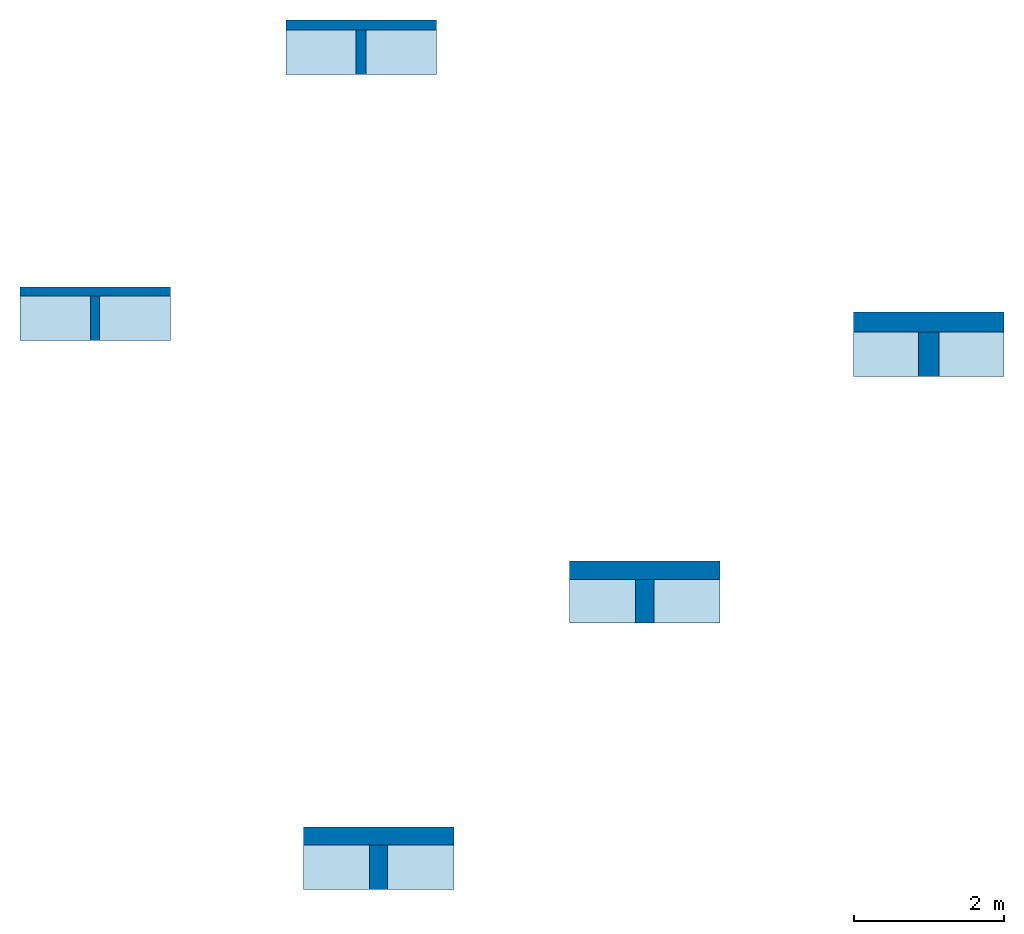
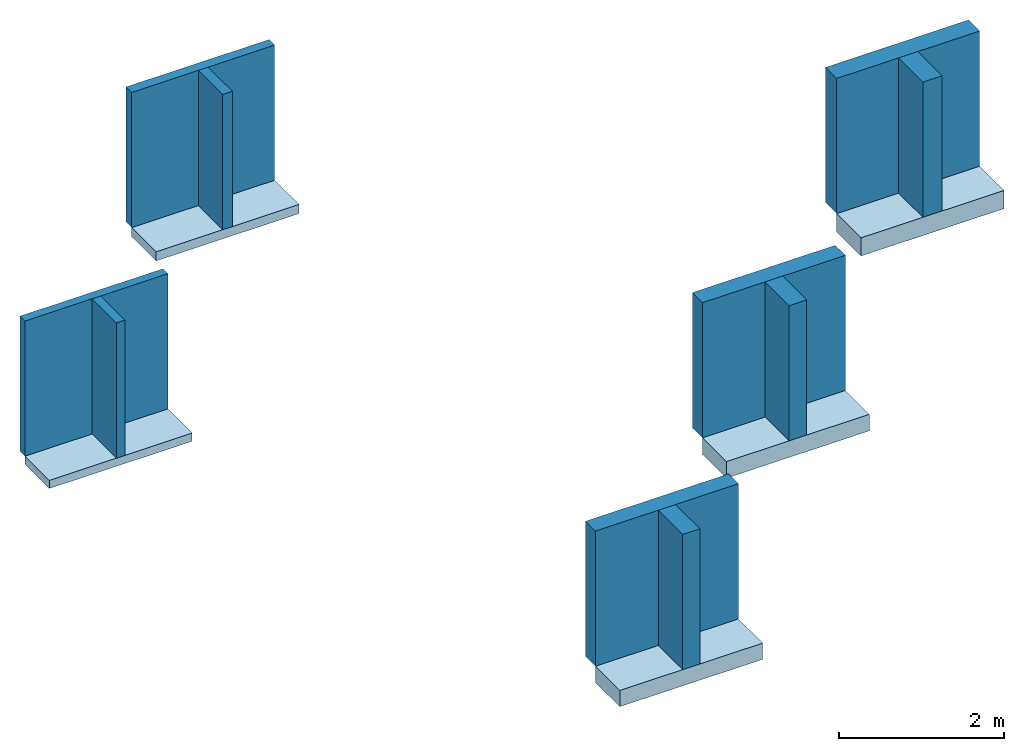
# One storey: 10 walls, 5 slabs.
"""IFC2X3 building model written with IfcOpenShell, lengths in millimetres."""

from ifc_helpers import new_model, entity, si_unit, converted_unit, derived_unit, direction, frame, frame_2d, origin, origin_2d_with_axis, place, context, subcontext, project, spatial, rectangle, extrude, material, layer, layer_set, layer_usage, type_object, element, save


model = new_model("IFC2X3")

# Units and contexts
model_context = context("Model", 3, precision=0.01, world=origin(), true_north=direction((6.12303176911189e-17, 1.0)))
context_of_model = context(None, 3, precision=0.01, world=origin(), true_north=direction((6.12303176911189e-17, 1.0)))
body_context = subcontext(model_context, "Body", "Model", "MODEL_VIEW")
ifc_project = project(units=[si_unit("LENGTHUNIT", "METRE", prefix="MILLI"), si_unit("AREAUNIT", "SQUARE_METRE"), si_unit("VOLUMEUNIT", "CUBIC_METRE"), converted_unit("PLANEANGLEUNIT", "DEGREE", entity("IfcRatioMeasure", 0.0174532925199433), si_unit("PLANEANGLEUNIT", "RADIAN"), dimensions=[0, 0, 0, 0, 0, 0, 0]), si_unit("MASSUNIT", "GRAM", prefix="KILO"), derived_unit("MASSDENSITYUNIT", [(si_unit("MASSUNIT", "GRAM", prefix="KILO"), 1), (si_unit("LENGTHUNIT", "METRE"), -3)]), derived_unit("MOMENTOFINERTIAUNIT", [(si_unit("LENGTHUNIT", "METRE"), 4)]), si_unit("TIMEUNIT", "SECOND"), si_unit("FREQUENCYUNIT", "HERTZ"), si_unit("THERMODYNAMICTEMPERATUREUNIT", "DEGREE_CELSIUS"), derived_unit("THERMALTRANSMITTANCEUNIT", [(si_unit("MASSUNIT", "GRAM", prefix="KILO"), 1), (si_unit("THERMODYNAMICTEMPERATUREUNIT", "KELVIN"), -1), (si_unit("TIMEUNIT", "SECOND"), -3)]), derived_unit("VOLUMETRICFLOWRATEUNIT", [(si_unit("LENGTHUNIT", "METRE"), 3), (si_unit("TIMEUNIT", "SECOND"), -1)]), si_unit("ELECTRICCURRENTUNIT", "AMPERE"), si_unit("ELECTRICVOLTAGEUNIT", "VOLT"), si_unit("POWERUNIT", "WATT"), si_unit("FORCEUNIT", "NEWTON", prefix="KILO"), si_unit("ILLUMINANCEUNIT", "LUX"), si_unit("LUMINOUSFLUXUNIT", "LUMEN"), si_unit("LUMINOUSINTENSITYUNIT", "CANDELA"), derived_unit("USERDEFINED", [(si_unit("MASSUNIT", "GRAM", prefix="KILO"), -1), (si_unit("LENGTHUNIT", "METRE"), -2), (si_unit("TIMEUNIT", "SECOND"), 3), (si_unit("LUMINOUSFLUXUNIT", "LUMEN"), 1)]), derived_unit("LINEARVELOCITYUNIT", [(si_unit("LENGTHUNIT", "METRE"), 1), (si_unit("TIMEUNIT", "SECOND"), -1)]), si_unit("PRESSUREUNIT", "PASCAL"), derived_unit("USERDEFINED", [(si_unit("LENGTHUNIT", "METRE"), -2), (si_unit("MASSUNIT", "GRAM", prefix="KILO"), 1), (si_unit("TIMEUNIT", "SECOND"), -2)]), derived_unit("LINEARFORCEUNIT", [(si_unit("MASSUNIT", "GRAM", prefix="KILO"), 1), (si_unit("LENGTHUNIT", "METRE"), 1), (si_unit("TIMEUNIT", "SECOND"), -2), (si_unit("LENGTHUNIT", "METRE"), -1)]), derived_unit("PLANARFORCEUNIT", [(si_unit("MASSUNIT", "GRAM", prefix="KILO"), 1), (si_unit("LENGTHUNIT", "METRE"), 1), (si_unit("TIMEUNIT", "SECOND"), -2), (si_unit("LENGTHUNIT", "METRE"), -2)])], contexts=[model_context, context_of_model])

# Site, building, storey
site_placement = place(None, origin())
site = spatial("IfcSite", under=ifc_project, at=site_placement, Name="Default", CompositionType="ELEMENT")
building_placement = place(site_placement, origin())
building = spatial("IfcBuilding", under=site, at=building_placement, CompositionType="ELEMENT")
storey_placement = place(building_placement, origin())
storey = spatial("IfcBuildingStorey", under=building, at=storey_placement, Name="Begane grond", CompositionType="ELEMENT", Elevation=0.0)

# Slabs
ifc_material = material(Name="Knauf Insulation_Ecose® glaswol Naturoll 033")
ifc_layer_1 = layer(ifc_material, 120.0)
ifc_layer_set_1 = layer_set([ifc_layer_1], Name="Floor:NLRS_23_FL_Naturoll 033_120x590x3300mm")
ifc_layer_usage_1 = layer_usage(ifc_layer_set_1, "AXIS3", "POSITIVE", 0.0)
slab_type_1 = type_object("IfcSlabType", Name="Floor:NLRS_23_FL_Naturoll 033_120x590x3300mm", PredefinedType="FLOOR", material=ifc_layer_set_1)
slab_1_placement = place(storey_placement, origin())
element("IfcSlab", 1, at=slab_1_placement, inside=storey, type_object=slab_type_1, material=ifc_layer_usage_1, Name="Floor:NLRS_23_FL_Naturoll 033_120x590x3300mm:4805", ObjectType="Floor:NLRS_23_FL_Naturoll 033_120x590x3300mm", PredefinedType="FLOOR", context=body_context, shape_type="SweptSolid", body=[
    extrude(rectangle(XDim=590.0, YDim=2000.0, at=origin_2d_with_axis()), frame((521.841374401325, 2707.39833712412, 0.0), z_axis=(0.0, 0.0, -1.0), x_axis=(0.0, 1.0, 0.0)), (0.0, 0.0, 1.0), 120.0),
])
ifc_layer_2 = layer(ifc_material, 135.0)
ifc_layer_set_2 = layer_set([ifc_layer_2], Name="Floor:NLRS_23_FL_Naturoll 033_135x590x3900mm")
ifc_layer_usage_2 = layer_usage(ifc_layer_set_2, "AXIS3", "POSITIVE", 0.0)
slab_type_2 = type_object("IfcSlabType", Name="Floor:NLRS_23_FL_Naturoll 033_135x590x3900mm", PredefinedType="FLOOR", material=ifc_layer_set_2)
slab_2_placement = place(storey_placement, origin())
element("IfcSlab", 2, at=slab_2_placement, inside=storey, type_object=slab_type_2, material=ifc_layer_usage_2, Name="Floor:NLRS_23_FL_Naturoll 033_135x590x3900mm:5263", ObjectType="Floor:NLRS_23_FL_Naturoll 033_135x590x3900mm", PredefinedType="FLOOR", context=body_context, shape_type="SweptSolid", body=[
    extrude(rectangle(XDim=590.0, YDim=2000.0, at=origin_2d_with_axis()), frame((4057.37528033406, 6242.93224305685, 0.0), z_axis=(0.0, 0.0, -1.0), x_axis=(0.0, 1.0, 0.0)), (0.0, 0.0, 1.0), 135.0),
])
ifc_layer_3 = layer(ifc_material, 240.0)
ifc_layer_set_3 = layer_set([ifc_layer_3], Name="Floor:NLRS_23_FL_Naturoll 033_240x590x2000mm")
ifc_layer_usage_3 = layer_usage(ifc_layer_set_3, "AXIS3", "POSITIVE", 0.0)
slab_type_3 = type_object("IfcSlabType", Name="Floor:NLRS_23_FL_Naturoll 033_240x590x2000mm", PredefinedType="FLOOR", material=ifc_layer_set_3)
slab_3_placement = place(storey_placement, origin())
element("IfcSlab", 3, at=slab_3_placement, inside=storey, type_object=slab_type_3, material=ifc_layer_usage_3, Name="Floor:NLRS_23_FL_Naturoll 033_240x590x2000mm", ObjectType="Floor:NLRS_23_FL_Naturoll 033_240x590x2000mm", PredefinedType="FLOOR", context=body_context, shape_type="SweptSolid", body=[
    extrude(rectangle(XDim=590.0, YDim=2000.0, at=frame_2d((-2.55795384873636e-13, 0.0), x_axis=(1.0, 0.0))), frame((4289.6940687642, -4591.6807597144, 0.0), z_axis=(0.0, 0.0, -1.0), x_axis=(0.0, 1.0, 0.0)), (0.0, 0.0, 1.0), 240.0),
])
ifc_layer_4 = layer(ifc_material, 245.0)
ifc_layer_set_4 = layer_set([ifc_layer_4], Name="Floor:NLRS_23_FL_Naturoll 033_245x580x2000mm")
ifc_layer_usage_4 = layer_usage(ifc_layer_set_4, "AXIS3", "POSITIVE", 0.0)
slab_type_4 = type_object("IfcSlabType", Name="Floor:NLRS_23_FL_Naturoll 033_245x580x2000mm", PredefinedType="FLOOR", material=ifc_layer_set_4)
slab_4_placement = place(storey_placement, origin())
element("IfcSlab", 4, at=slab_4_placement, inside=storey, type_object=slab_type_4, material=ifc_layer_usage_4, Name="Floor:NLRS_23_FL_Naturoll 033_245x580x2000mm", ObjectType="Floor:NLRS_23_FL_Naturoll 033_245x580x2000mm", PredefinedType="FLOOR", context=body_context, shape_type="SweptSolid", body=[
    extrude(rectangle(XDim=579.999999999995, YDim=2000.0, at=origin_2d_with_axis()), frame((7825.22797469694, -1056.14685378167, 0.0), z_axis=(0.0, 0.0, -1.0), x_axis=(0.0, 1.0, 0.0)), (0.0, 0.0, 1.0), 245.0),
])
ifc_layer_5 = layer(ifc_material, 270.0)
ifc_layer_set_5 = layer_set([ifc_layer_5], Name="Floor:NLRS_23_FL_Naturoll 033_270x590x2500mm")
ifc_layer_usage_5 = layer_usage(ifc_layer_set_5, "AXIS3", "POSITIVE", 0.0)
slab_type_5 = type_object("IfcSlabType", Name="Floor:NLRS_23_FL_Naturoll 033_270x590x2500mm", PredefinedType="FLOOR", material=ifc_layer_set_5)
slab_5_placement = place(storey_placement, origin())
element("IfcSlab", 5, at=slab_5_placement, inside=storey, type_object=slab_type_5, material=ifc_layer_usage_5, Name="Floor:NLRS_23_FL_Naturoll 033_270x590x2500mm", ObjectType="Floor:NLRS_23_FL_Naturoll 033_270x590x2500mm", PredefinedType="FLOOR", context=body_context, shape_type="SweptSolid", body=[
    extrude(rectangle(XDim=590.0, YDim=2000.0, at=origin_2d_with_axis()), frame((11603.2310849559, 2228.30284091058, 0.0), z_axis=(0.0, 0.0, -1.0), x_axis=(0.0, 1.0, 0.0)), (0.0, 0.0, 1.0), 270.0),
])

# Walls
ifc_layer_6 = layer(ifc_material, 120.0)
ifc_layer_set_6 = layer_set([ifc_layer_6], Name="Basic Wall:NLRS_21_WA_Naturoll 033_120x590x3300mm")
ifc_layer_usage_6 = layer_usage(ifc_layer_set_6, "AXIS2", "NEGATIVE", 60.0)
wall_type_1 = type_object("IfcWallType", Name="Basic Wall:NLRS_21_WA_Naturoll 033_120x590x3300mm", PredefinedType="STANDARD", material=ifc_layer_set_6)
wall_1_placement = place(storey_placement, frame((-478.158625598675, 3062.39833712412, 0.0)))
element("IfcWallStandardCase", 6, at=wall_1_placement, inside=storey, type_object=wall_type_1, material=ifc_layer_usage_6, Name="Basic Wall:NLRS_21_WA_Naturoll 033_120x590x3300mm:4861", ObjectType="Basic Wall:NLRS_21_WA_Naturoll 033_120x590x3300mm", context=body_context, shape_type="SweptSolid", body=[
    extrude(rectangle(XDim=2000.0, YDim=120.0, at=frame_2d((1000.0, 0.0), x_axis=(-1.0, 0.0))), origin(), (0.0, 0.0, 1.0), 2000.0),
])
ifc_layer_usage_7 = layer_usage(ifc_layer_set_6, "AXIS2", "NEGATIVE", 60.0)
wall_2_placement = place(storey_placement, frame((521.841374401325, 3002.39833712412, 0.0), z_axis=(0.0, 0.0, 1.0), x_axis=(0.0, -1.0, 0.0)))
element("IfcWallStandardCase", 7, at=wall_2_placement, inside=storey, type_object=wall_type_1, material=ifc_layer_usage_7, Name="Basic Wall:NLRS_21_WA_Naturoll 033_120x590x3300mm:4961", ObjectType="Basic Wall:NLRS_21_WA_Naturoll 033_120x590x3300mm", context=body_context, shape_type="SweptSolid", body=[
    extrude(rectangle(XDim=590.0, YDim=120.0, at=frame_2d((295.0, 0.0), x_axis=(-1.0, 0.0))), origin(), (0.0, 0.0, 1.0), 2000.0),
])
ifc_layer_7 = layer(ifc_material, 135.0)
ifc_layer_set_7 = layer_set([ifc_layer_7], Name="Basic Wall:NLRS_21_WA_Naturoll 033_135x590x3900mm")
ifc_layer_usage_8 = layer_usage(ifc_layer_set_7, "AXIS2", "NEGATIVE", 67.5)
wall_type_2 = type_object("IfcWallType", Name="Basic Wall:NLRS_21_WA_Naturoll 033_135x590x3900mm", PredefinedType="STANDARD", material=ifc_layer_set_7)
wall_3_placement = place(storey_placement, frame((3057.37528033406, 6605.43224305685, 0.0)))
element("IfcWallStandardCase", 8, at=wall_3_placement, inside=storey, type_object=wall_type_2, material=ifc_layer_usage_8, Name="Basic Wall:NLRS_21_WA_Naturoll 033_135x590x3900mm:5268", ObjectType="Basic Wall:NLRS_21_WA_Naturoll 033_135x590x3900mm", context=body_context, shape_type="SweptSolid", body=[
    extrude(rectangle(XDim=2000.0, YDim=135.0, at=frame_2d((1000.0, 0.0), x_axis=(-1.0, 0.0))), origin(), (0.0, 0.0, 1.0), 2000.0),
])
ifc_layer_usage_9 = layer_usage(ifc_layer_set_7, "AXIS2", "NEGATIVE", 67.5)
wall_4_placement = place(storey_placement, frame((4057.37528033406, 6537.93224305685, 0.0), z_axis=(0.0, 0.0, 1.0), x_axis=(0.0, -1.0, 0.0)))
element("IfcWallStandardCase", 9, at=wall_4_placement, inside=storey, type_object=wall_type_2, material=ifc_layer_usage_9, Name="Basic Wall:NLRS_21_WA_Naturoll 033_135x590x3900mm:5269", ObjectType="Basic Wall:NLRS_21_WA_Naturoll 033_135x590x3900mm", context=body_context, shape_type="SweptSolid", body=[
    extrude(rectangle(XDim=590.0, YDim=135.0, at=frame_2d((295.0, 0.0), x_axis=(-1.0, 0.0))), origin(), (0.0, 0.0, 1.0), 2000.0),
])
ifc_layer_8 = layer(ifc_material, 240.0)
ifc_layer_set_8 = layer_set([ifc_layer_8], Name="Basic Wall:NLRS_21_WA_Naturoll 033_240x590x2000mm")
ifc_layer_usage_10 = layer_usage(ifc_layer_set_8, "AXIS2", "NEGATIVE", 120.0)
wall_type_3 = type_object("IfcWallType", Name="Basic Wall:NLRS_21_WA_Naturoll 033_240x590x2000mm", PredefinedType="STANDARD", material=ifc_layer_set_8)
wall_5_placement = place(storey_placement, frame((3289.6940687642, -4176.6807597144, 0.0)))
element("IfcWallStandardCase", 10, at=wall_5_placement, inside=storey, type_object=wall_type_3, material=ifc_layer_usage_10, Name="Basic Wall:NLRS_21_WA_Naturoll 033_240x590x2000mm", ObjectType="Basic Wall:NLRS_21_WA_Naturoll 033_240x590x2000mm", context=body_context, shape_type="SweptSolid", body=[
    extrude(rectangle(XDim=2000.0, YDim=240.0, at=frame_2d((1000.0, 0.0), x_axis=(-1.0, 0.0))), origin(), (0.0, 0.0, 1.0), 2000.0),
])
ifc_layer_usage_11 = layer_usage(ifc_layer_set_8, "AXIS2", "NEGATIVE", 120.0)
wall_6_placement = place(storey_placement, frame((4289.6940687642, -4296.6807597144, 0.0), z_axis=(0.0, 0.0, 1.0), x_axis=(0.0, -1.0, 0.0)))
element("IfcWallStandardCase", 11, at=wall_6_placement, inside=storey, type_object=wall_type_3, material=ifc_layer_usage_11, Name="Basic Wall:NLRS_21_WA_Naturoll 033_240x590x2000mm", ObjectType="Basic Wall:NLRS_21_WA_Naturoll 033_240x590x2000mm", context=body_context, shape_type="SweptSolid", body=[
    extrude(rectangle(XDim=590.000000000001, YDim=240.0, at=frame_2d((295.000000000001, 0.0), x_axis=(-1.0, 0.0))), origin(), (0.0, 0.0, 1.0), 2000.0),
])
ifc_layer_9 = layer(ifc_material, 245.0)
ifc_layer_set_9 = layer_set([ifc_layer_9], Name="Basic Wall:NLRS_21_WA_Naturoll 033_245x580x2000mm")
ifc_layer_usage_12 = layer_usage(ifc_layer_set_9, "AXIS2", "NEGATIVE", 122.5)
wall_type_4 = type_object("IfcWallType", Name="Basic Wall:NLRS_21_WA_Naturoll 033_245x580x2000mm", PredefinedType="STANDARD", material=ifc_layer_set_9)
wall_7_placement = place(storey_placement, frame((6825.22797469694, -643.646853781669, 0.0)))
element("IfcWallStandardCase", 12, at=wall_7_placement, inside=storey, type_object=wall_type_4, material=ifc_layer_usage_12, Name="Basic Wall:NLRS_21_WA_Naturoll 033_245x580x2000mm", ObjectType="Basic Wall:NLRS_21_WA_Naturoll 033_245x580x2000mm", context=body_context, shape_type="SweptSolid", body=[
    extrude(rectangle(XDim=2000.0, YDim=245.0, at=frame_2d((1000.0, 0.0), x_axis=(-1.0, 0.0))), origin(), (0.0, 0.0, 1.0), 2000.0),
])
ifc_layer_usage_13 = layer_usage(ifc_layer_set_9, "AXIS2", "NEGATIVE", 122.5)
wall_8_placement = place(storey_placement, frame((7825.22797469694, -766.14685378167, 0.0), z_axis=(0.0, 0.0, 1.0), x_axis=(0.0, -1.0, 0.0)))
element("IfcWallStandardCase", 13, at=wall_8_placement, inside=storey, type_object=wall_type_4, material=ifc_layer_usage_13, Name="Basic Wall:NLRS_21_WA_Naturoll 033_245x580x2000mm", ObjectType="Basic Wall:NLRS_21_WA_Naturoll 033_245x580x2000mm", context=body_context, shape_type="SweptSolid", body=[
    extrude(rectangle(XDim=580.0, YDim=245.000000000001, at=frame_2d((290.0, -1.4210854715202e-14), x_axis=(-1.0, 0.0))), origin(), (0.0, 0.0, 1.0), 2000.0),
])
ifc_layer_10 = layer(ifc_material, 270.0)
ifc_layer_set_10 = layer_set([ifc_layer_10], Name="Basic Wall:NLRS_21_WA_Naturoll 033_270x590x2500mm")
ifc_layer_usage_14 = layer_usage(ifc_layer_set_10, "AXIS2", "NEGATIVE", 135.0)
wall_type_5 = type_object("IfcWallType", Name="Basic Wall:NLRS_21_WA_Naturoll 033_270x590x2500mm", PredefinedType="STANDARD", material=ifc_layer_set_10)
wall_9_placement = place(storey_placement, frame((10603.2310849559, 2658.30284091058, 0.0)))
element("IfcWallStandardCase", 14, at=wall_9_placement, inside=storey, type_object=wall_type_5, material=ifc_layer_usage_14, Name="Basic Wall:NLRS_21_WA_Naturoll 033_270x590x2500mm", ObjectType="Basic Wall:NLRS_21_WA_Naturoll 033_270x590x2500mm", context=body_context, shape_type="SweptSolid", body=[
    extrude(rectangle(XDim=2000.0, YDim=270.0, at=frame_2d((1000.0, 0.0), x_axis=(-1.0, 0.0))), origin(), (0.0, 0.0, 1.0), 2000.0),
])
ifc_layer_usage_15 = layer_usage(ifc_layer_set_10, "AXIS2", "NEGATIVE", 135.0)
wall_10_placement = place(storey_placement, frame((11603.2310849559, 2523.30284091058, 0.0), z_axis=(0.0, 0.0, 1.0), x_axis=(0.0, -1.0, 0.0)))
element("IfcWallStandardCase", 15, at=wall_10_placement, inside=storey, type_object=wall_type_5, material=ifc_layer_usage_15, Name="Basic Wall:NLRS_21_WA_Naturoll 033_270x590x2500mm", ObjectType="Basic Wall:NLRS_21_WA_Naturoll 033_270x590x2500mm", context=body_context, shape_type="SweptSolid", body=[
    extrude(rectangle(XDim=590.000000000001, YDim=269.999999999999, at=frame_2d((295.0, -5.40012479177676e-13), x_axis=(-1.0, 0.0))), origin(), (0.0, 0.0, 1.0), 2000.0),
])

save(model, "model.ifc")
